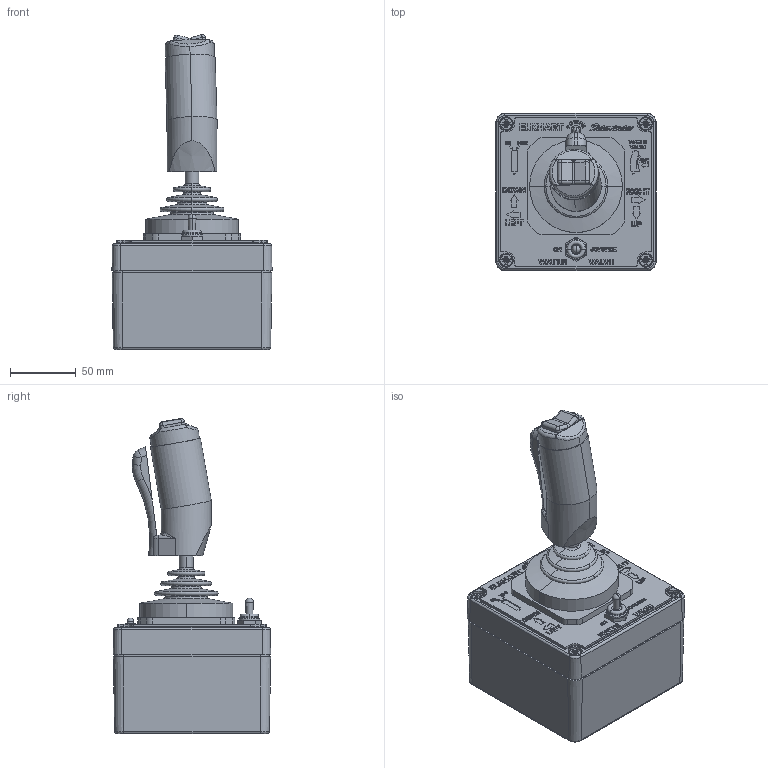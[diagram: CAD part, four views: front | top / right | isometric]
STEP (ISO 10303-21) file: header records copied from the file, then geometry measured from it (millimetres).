
FILE_DESCRIPTION (( 'STEP AP203' ), '1' );
FILE_NAME ('8117201.STEP', '2014-02-27T22:08:16', ( 'eb' ), ( '' ), 'SwSTEP 2.0', 'SolidWorks 2013', '' );
FILE_SCHEMA (( 'CONFIG_CONTROL_DESIGN' ));
Length unit declared in the file: inch
Products named in the file (1): 8117201
Bounding box: 121.92 x 119.89 x 239.93 mm (x, y, z)
Volume: 1406345 mm3; surface area: 98924.6 mm2
Topology: 2 solids, 2 shells, 1387 faces, 3607 edges, 2339 vertices
Faces by surface type: plane 997, bspline 142, cylinder 127, torus 62, cone 49, sphere 10
Entity records: 49424 total; most frequent: CARTESIAN_POINT 16099, ORIENTED_EDGE 7168, DIRECTION 6270, EDGE_CURVE 3584, LINE 2790, VECTOR 2790, VERTEX_POINT 2330, AXIS2_PLACEMENT_3D 1740
